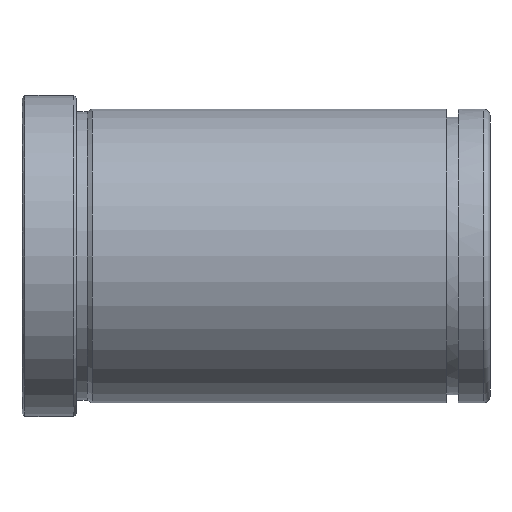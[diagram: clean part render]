
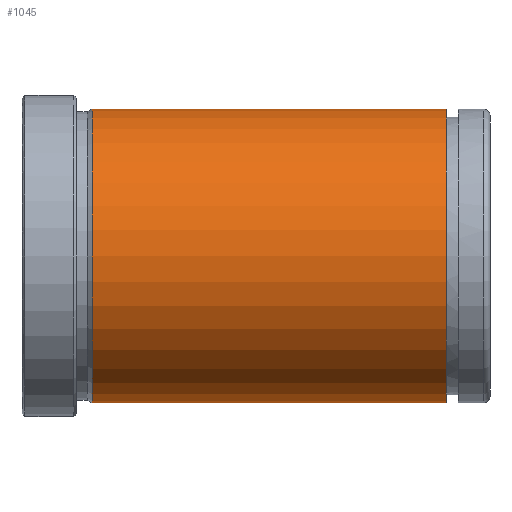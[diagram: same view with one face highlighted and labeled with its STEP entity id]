
A CAD part, front view. The second image highlights one B-rep face of the part: STEP entity #1045.
In plain terms, the highlighted cylindrical face has radius 27 mm (diameter 54 mm), a partial arc.
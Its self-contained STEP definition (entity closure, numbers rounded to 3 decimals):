
#851=CARTESIAN_POINT('Vertex',(12.866,0.,-27.)) ;
#858=CARTESIAN_POINT('Vertex',(12.866,0.,27.)) ;
#887=CARTESIAN_POINT('Axis2P3D Location',(12.866,0.,0.)) ;
#891=CARTESIAN_POINT('Vertex',(12.866,-27.,0.)) ;
#894=CARTESIAN_POINT('Axis2P3D Location',(12.866,0.,0.)) ;
#985=CARTESIAN_POINT('Line Origine',(172.,0.,27.)) ;
#989=CARTESIAN_POINT('Vertex',(78.,0.,27.)) ;
#1003=CARTESIAN_POINT('Vertex',(78.,0.,-27.)) ;
#1006=CARTESIAN_POINT('Line Origine',(172.,0.,-27.)) ;
#1020=CARTESIAN_POINT('Axis2P3D Location',(172.,0.,0.)) ;
#1025=CARTESIAN_POINT('Axis2P3D Location',(78.,0.,0.)) ;
#1029=CARTESIAN_POINT('Vertex',(78.,-27.,0.)) ;
#1032=CARTESIAN_POINT('Axis2P3D Location',(78.,0.,0.)) ;
#888=DIRECTION('Axis2P3D Direction',(1.,0.,-0.)) ;
#895=DIRECTION('Axis2P3D Direction',(1.,0.,-0.)) ;
#986=DIRECTION('Vector Direction',(-1.,0.,0.)) ;
#1007=DIRECTION('Vector Direction',(-1.,0.,0.)) ;
#1021=DIRECTION('Axis2P3D Direction',(-1.,-0.,-0.)) ;
#1022=DIRECTION('Axis2P3D XDirection',(0.,0.,-1.)) ;
#1026=DIRECTION('Axis2P3D Direction',(-1.,-0.,-0.)) ;
#1033=DIRECTION('Axis2P3D Direction',(-1.,-0.,-0.)) ;
#889=AXIS2_PLACEMENT_3D('Circle Axis2P3D',#887,#888,$) ;
#896=AXIS2_PLACEMENT_3D('Circle Axis2P3D',#894,#895,$) ;
#1023=AXIS2_PLACEMENT_3D('Cylinder Axis2P3D',#1020,#1021,#1022) ;
#1027=AXIS2_PLACEMENT_3D('Circle Axis2P3D',#1025,#1026,$) ;
#1034=AXIS2_PLACEMENT_3D('Circle Axis2P3D',#1032,#1033,$) ;
#1038=ORIENTED_EDGE('',*,*,#1010,.T.) ;
#1039=ORIENTED_EDGE('',*,*,#1031,.F.) ;
#1040=ORIENTED_EDGE('',*,*,#1036,.F.) ;
#1041=ORIENTED_EDGE('',*,*,#991,.T.) ;
#1042=ORIENTED_EDGE('',*,*,#898,.T.) ;
#1043=ORIENTED_EDGE('',*,*,#893,.T.) ;
#987=VECTOR('Line Direction',#986,1.) ;
#1008=VECTOR('Line Direction',#1007,1.) ;
#1045=ADVANCED_FACE('553-40X86',(#1044),#1024,.T.) ;
#890=CIRCLE('generated circle',#889,27.) ;
#897=CIRCLE('generated circle',#896,27.) ;
#1028=CIRCLE('generated circle',#1027,27.) ;
#1035=CIRCLE('generated circle',#1034,27.) ;
#1024=CYLINDRICAL_SURFACE('generated cylinder',#1023,27.) ;
#893=EDGE_CURVE('',#892,#852,#890,.T.) ;
#898=EDGE_CURVE('',#859,#892,#897,.T.) ;
#991=EDGE_CURVE('',#990,#859,#988,.T.) ;
#1010=EDGE_CURVE('',#852,#1004,#1009,.F.) ;
#1031=EDGE_CURVE('',#1030,#1004,#1028,.F.) ;
#1036=EDGE_CURVE('',#990,#1030,#1035,.F.) ;
#1037=EDGE_LOOP('',(#1038,#1039,#1040,#1041,#1042,#1043)) ;
#1044=FACE_OUTER_BOUND('',#1037,.T.) ;
#988=LINE('Line',#985,#987) ;
#1009=LINE('Line',#1006,#1008) ;
#852=VERTEX_POINT('',#851) ;
#859=VERTEX_POINT('',#858) ;
#892=VERTEX_POINT('',#891) ;
#990=VERTEX_POINT('',#989) ;
#1004=VERTEX_POINT('',#1003) ;
#1030=VERTEX_POINT('',#1029) ;
